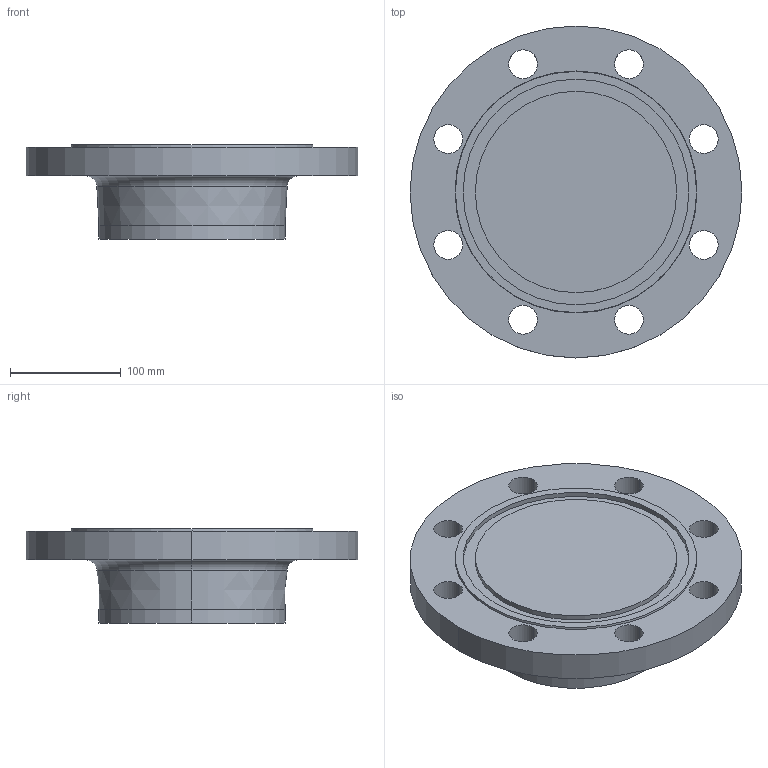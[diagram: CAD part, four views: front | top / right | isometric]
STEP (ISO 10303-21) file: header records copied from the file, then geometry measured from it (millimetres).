
FILE_DESCRIPTION (( 'STEP AP214' ), '1' );
FILE_NAME ('PN40 DN150 Type 21(ii) - Type D Face.STEP', '2019-01-02T23:12:41', ( '' ), ( '' ), 'SwSTEP 2.0', 'SolidWorks 2019', '' );
FILE_SCHEMA (( 'AUTOMOTIVE_DESIGN' ));
Length unit declared in the file: millimetre
Products named in the file (1): PN40 DN150 Type 21(ii) - Type D Face
Bounding box: 300 x 300 x 85 mm (x, y, z)
Volume: 3079085.8 mm3; surface area: 208195.8 mm2
Topology: 1 solids, 1 shells, 38 faces, 90 edges, 58 vertices
Faces by surface type: cylinder 24, plane 6, torus 4, cone 4
Entity records: 1194 total; most frequent: DIRECTION 230, CARTESIAN_POINT 187, ORIENTED_EDGE 180, AXIS2_PLACEMENT_3D 101, EDGE_CURVE 90, CIRCLE 62, VERTEX_POINT 58, EDGE_LOOP 58
